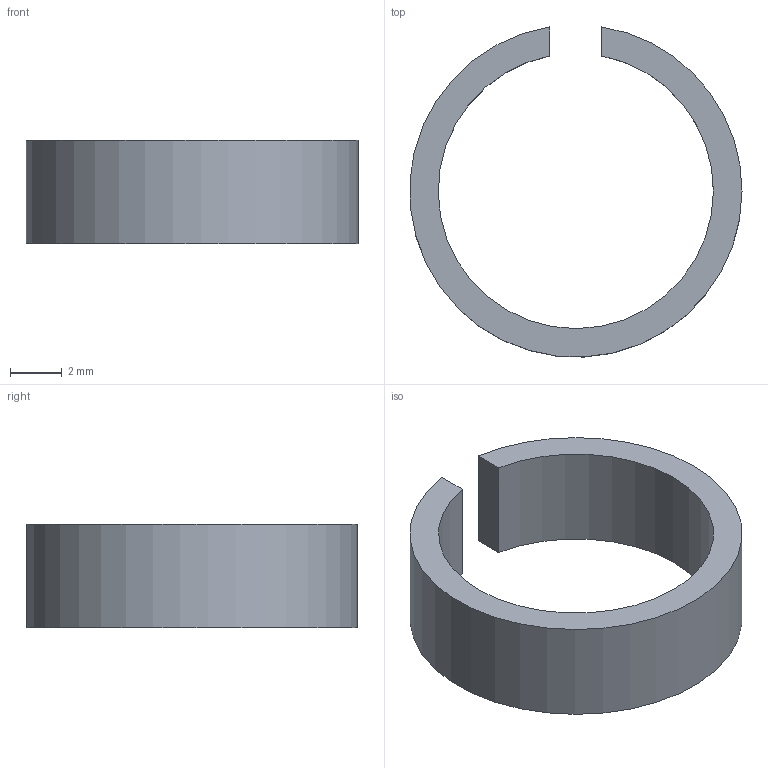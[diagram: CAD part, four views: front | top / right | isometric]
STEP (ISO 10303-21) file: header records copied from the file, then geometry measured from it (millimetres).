
FILE_DESCRIPTION(('FreeCAD Model'),'2;1');
FILE_NAME('Open CASCADE Shape Model','2026-11-20T08:25:39',('FreeCAD'),( 'FreeCAD'),'Open CASCADE STEP processor 7.8','FreeCAD','Unknown');
FILE_SCHEMA(('AUTOMOTIVE_DESIGN { 1 0 10303 214 1 1 1 1 }'));
Length unit declared in the file: millimetre
Products named in the file (1): Open CASCADE STEP translator 7.8 82
Bounding box: 12.79 x 12.71 x 4 mm (x, y, z)
Volume: 152.9 mm3; surface area: 363.3 mm2
Topology: 1 solids, 1 shells, 6 faces, 16 edges, 12 vertices
Faces by surface type: plane 4, cylinder 2
Entity records: 210 total; most frequent: DIRECTION 38, CARTESIAN_POINT 35, ORIENTED_EDGE 32, EDGE_CURVE 16, AXIS2_PLACEMENT_3D 15, VERTEX_POINT 12, CIRCLE 8, LINE 8
